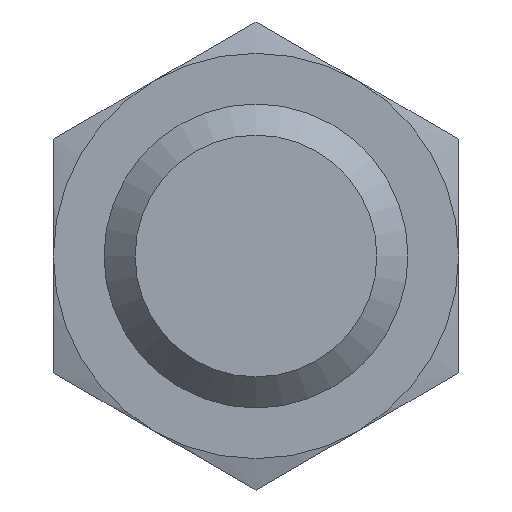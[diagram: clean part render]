
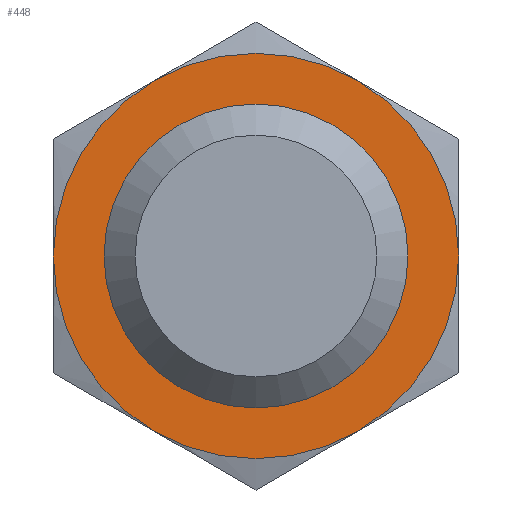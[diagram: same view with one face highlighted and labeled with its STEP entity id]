
A CAD part, front view. The second image highlights one B-rep face of the part: STEP entity #448.
In plain terms, the highlighted planar face has unit normal (0, -1, 0).
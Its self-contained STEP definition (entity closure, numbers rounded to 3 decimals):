
#41=PLANE('',#507);
#63=CIRCLE('',#506,4.);
#64=CIRCLE('',#508,2.387);
#113=ORIENTED_EDGE('',*,*,#220,.F.);
#114=ORIENTED_EDGE('',*,*,#219,.T.);
#219=EDGE_CURVE('',#271,#271,#63,.T.);
#220=EDGE_CURVE('',#272,#272,#64,.T.);
#271=VERTEX_POINT('',#771);
#272=VERTEX_POINT('',#774);
#334=EDGE_LOOP('',(#113));
#335=EDGE_LOOP('',(#114));
#386=FACE_BOUND('',#334,.T.);
#387=FACE_BOUND('',#335,.T.);
#448=ADVANCED_FACE('',(#386,#387),#41,.F.);
#506=AXIS2_PLACEMENT_3D('',#770,#591,#592);
#507=AXIS2_PLACEMENT_3D('',#772,#593,#594);
#508=AXIS2_PLACEMENT_3D('',#773,#595,#596);
#591=DIRECTION('',(0.,-1.,0.));
#592=DIRECTION('',(0.,0.,-1.));
#593=DIRECTION('',(0.,1.,0.));
#594=DIRECTION('',(0.,0.,1.));
#595=DIRECTION('',(0.,-1.,0.));
#596=DIRECTION('',(0.,0.,-1.));
#770=CARTESIAN_POINT('',(0.,0.,0.));
#771=CARTESIAN_POINT('',(0.,0.,-4.));
#772=CARTESIAN_POINT('',(4.,0.,0.));
#773=CARTESIAN_POINT('',(0.,0.,0.));
#774=CARTESIAN_POINT('',(0.,0.,-2.387));
